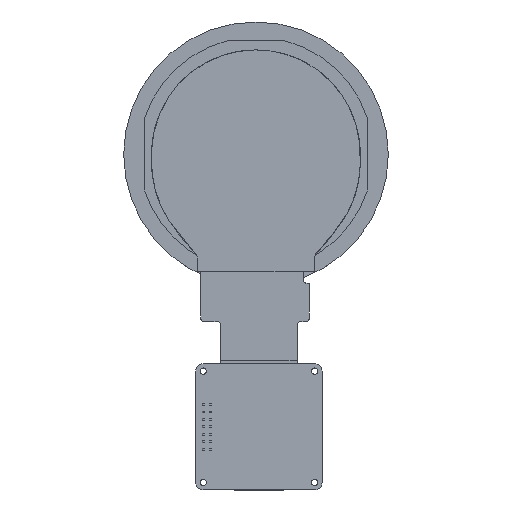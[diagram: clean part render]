
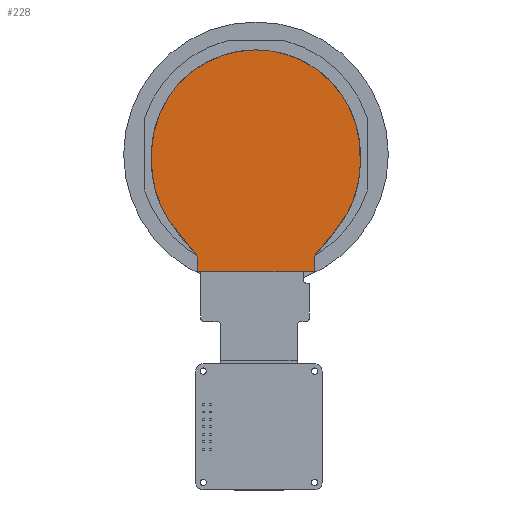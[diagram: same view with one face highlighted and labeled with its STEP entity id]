
A CAD part, top view. The second image highlights one B-rep face of the part: STEP entity #228.
In plain terms, the highlighted planar face has unit normal (0, 0, 1).
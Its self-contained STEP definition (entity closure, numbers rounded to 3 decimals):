
#33=CARTESIAN_POINT('',(15.7,-27.055,2.3));
#34=CARTESIAN_POINT('',(15.698,-26.834,2.3));
#35=CARTESIAN_POINT('',(15.693,-26.366,2.3));
#36=CARTESIAN_POINT('',(15.835,-25.57,2.3));
#37=CARTESIAN_POINT('',(16.325,-24.54,2.3));
#38=CARTESIAN_POINT('',(17.718,-23.275,2.3));
#39=CARTESIAN_POINT('',(19.484,-21.393,2.3));
#40=CARTESIAN_POINT('',(21.368,-18.928,2.3));
#41=CARTESIAN_POINT('',(23.157,-16.446,2.3));
#42=CARTESIAN_POINT('',(24.801,-13.807,2.3));
#43=CARTESIAN_POINT('',(26.046,-11.141,2.3));
#44=CARTESIAN_POINT('',(27.046,-8.258,2.3));
#45=CARTESIAN_POINT('',(27.697,-5.478,2.3));
#46=CARTESIAN_POINT('',(28.002,-2.99,2.3));
#47=CARTESIAN_POINT('',(28.105,-1.102,2.3));
#48=CARTESIAN_POINT('',(28.08,0.863,2.3));
#49=CARTESIAN_POINT('',(28.11,3.381,2.3));
#50=CARTESIAN_POINT('',(27.767,6.334,2.3));
#51=CARTESIAN_POINT('',(27.11,9.319,2.3));
#52=CARTESIAN_POINT('',(26.187,12.074,2.3));
#53=CARTESIAN_POINT('',(24.881,14.924,2.3));
#54=CARTESIAN_POINT('',(23.363,17.459,2.3));
#55=CARTESIAN_POINT('',(21.508,19.911,2.3));
#56=CARTESIAN_POINT('',(19.508,22.053,2.3));
#57=CARTESIAN_POINT('',(17.126,24.104,2.3));
#58=CARTESIAN_POINT('',(14.618,25.818,2.3));
#59=CARTESIAN_POINT('',(11.823,27.308,2.3));
#60=CARTESIAN_POINT('',(9.033,28.424,2.3));
#61=CARTESIAN_POINT('',(5.969,29.268,2.3));
#62=CARTESIAN_POINT('',(3.001,29.767,2.3));
#63=CARTESIAN_POINT('',(0.941,29.827,2.3));
#64=CARTESIAN_POINT('',(0.,29.855,2.3));
#66=CARTESIAN_POINT('',(15.7,-29.855,2.3));
#67=CARTESIAN_POINT('',(15.7,-28.922,2.3));
#68=CARTESIAN_POINT('',(15.7,-27.988,2.3));
#69=CARTESIAN_POINT('',(15.7,-27.055,2.3));
#71=CARTESIAN_POINT('',(-15.7,-29.855,2.3));
#72=CARTESIAN_POINT('',(-5.233,-29.855,2.3));
#73=CARTESIAN_POINT('',(5.233,-29.855,2.3));
#74=CARTESIAN_POINT('',(15.7,-29.855,2.3));
#76=CARTESIAN_POINT('',(0.,29.855,2.3));
#77=CARTESIAN_POINT('',(-0.941,29.827,2.3));
#78=CARTESIAN_POINT('',(-3.001,29.767,2.3));
#79=CARTESIAN_POINT('',(-5.969,29.268,2.3));
#80=CARTESIAN_POINT('',(-9.033,28.424,2.3));
#81=CARTESIAN_POINT('',(-11.823,27.308,2.3));
#82=CARTESIAN_POINT('',(-14.618,25.818,2.3));
#83=CARTESIAN_POINT('',(-17.126,24.104,2.3));
#84=CARTESIAN_POINT('',(-19.508,22.053,2.3));
#85=CARTESIAN_POINT('',(-21.508,19.911,2.3));
#86=CARTESIAN_POINT('',(-23.363,17.459,2.3));
#87=CARTESIAN_POINT('',(-24.881,14.924,2.3));
#88=CARTESIAN_POINT('',(-26.187,12.074,2.3));
#89=CARTESIAN_POINT('',(-27.11,9.319,2.3));
#90=CARTESIAN_POINT('',(-27.767,6.334,2.3));
#91=CARTESIAN_POINT('',(-28.11,3.381,2.3));
#92=CARTESIAN_POINT('',(-28.08,0.863,2.3));
#93=CARTESIAN_POINT('',(-28.105,-1.102,2.3));
#94=CARTESIAN_POINT('',(-28.002,-2.99,2.3));
#95=CARTESIAN_POINT('',(-27.697,-5.478,2.3));
#96=CARTESIAN_POINT('',(-27.046,-8.258,2.3));
#97=CARTESIAN_POINT('',(-26.046,-11.141,2.3));
#98=CARTESIAN_POINT('',(-24.801,-13.807,2.3));
#99=CARTESIAN_POINT('',(-23.157,-16.446,2.3));
#100=CARTESIAN_POINT('',(-21.368,-18.928,2.3));
#101=CARTESIAN_POINT('',(-19.484,-21.393,2.3));
#102=CARTESIAN_POINT('',(-17.718,-23.275,2.3));
#103=CARTESIAN_POINT('',(-16.325,-24.54,2.3));
#104=CARTESIAN_POINT('',(-15.836,-25.57,2.3));
#105=CARTESIAN_POINT('',(-15.693,-26.366,2.3));
#106=CARTESIAN_POINT('',(-15.704,-27.301,2.3));
#107=CARTESIAN_POINT('',(-15.699,-28.455,2.3));
#108=CARTESIAN_POINT('',(-15.7,-29.388,2.3));
#109=CARTESIAN_POINT('',(-15.7,-29.855,2.3));
#209=VERTEX_POINT('',#33);
#210=VERTEX_POINT('',#64);
#211=VERTEX_POINT('',#109);
#212=VERTEX_POINT('',#74);
#213=CARTESIAN_POINT('',(0.,0.,2.3));
#214=DIRECTION('',(0.,0.,1.));
#215=DIRECTION('',(1.,0.,0.));
#216=AXIS2_PLACEMENT_3D('',#213,#214,#215);
#217=PLANE('',#216);
#219=ORIENTED_EDGE('',*,*,#218,.F.);
#221=ORIENTED_EDGE('',*,*,#220,.F.);
#223=ORIENTED_EDGE('',*,*,#222,.F.);
#225=ORIENTED_EDGE('',*,*,#224,.F.);
#226=EDGE_LOOP('',(#219,#221,#223,#225));
#227=FACE_OUTER_BOUND('',#226,.F.);
#65=B_SPLINE_CURVE_WITH_KNOTS('',3,(#33,#34,#35,#36,#37,#38,#39,#40,#41,#42,#43,
#44,#45,#46,#47,#48,#49,#50,#51,#52,#53,#54,#55,#56,#57,#58,#59,#60,#61,#62,#63,
#64),.UNSPECIFIED.,.F.,.F.,(4,1,1,1,1,1,1,1,1,1,1,1,1,1,1,1,1,1,1,1,1,1,1,1,1,1,
1,1,1,4),(0.,0.009,0.018,0.031,
0.052,0.091,0.133,0.174,
0.211,0.255,0.289,0.331,
0.366,0.387,0.405,0.443,
0.486,0.521,0.563,0.599,
0.644,0.679,0.72,0.758,
0.802,0.839,0.882,0.919,
0.963,1.),.UNSPECIFIED.);
#70=B_SPLINE_CURVE_WITH_KNOTS('',3,(#66,#67,#68,#69),.UNSPECIFIED.,.F.,.F.,(4,
4),(0.,1.),.UNSPECIFIED.);
#75=B_SPLINE_CURVE_WITH_KNOTS('',3,(#71,#72,#73,#74),.UNSPECIFIED.,.F.,.F.,(4,
4),(0.,1.),.UNSPECIFIED.);
#110=B_SPLINE_CURVE_WITH_KNOTS('',3,(#76,#77,#78,#79,#80,#81,#82,#83,#84,#85,
#86,#87,#88,#89,#90,#91,#92,#93,#94,#95,#96,#97,#98,#99,#100,#101,#102,#103,
#104,#105,#106,#107,#108,#109),.UNSPECIFIED.,.F.,.F.,(4,1,1,1,1,1,1,1,1,1,1,1,1,
1,1,1,1,1,1,1,1,1,1,1,1,1,1,1,1,1,1,4),(0.,0.036,
0.078,0.113,0.156,0.191,
0.233,0.27,0.31,0.344,
0.386,0.422,0.462,0.496,
0.537,0.574,0.591,0.611,
0.646,0.686,0.719,0.761,
0.797,0.837,0.877,0.914,
0.934,0.947,0.956,0.965,
0.982,1.),.UNSPECIFIED.);
#218=EDGE_CURVE('',#209,#210,#65,.T.);
#220=EDGE_CURVE('',#212,#209,#70,.T.);
#222=EDGE_CURVE('',#211,#212,#75,.T.);
#224=EDGE_CURVE('',#210,#211,#110,.T.);
#228=ADVANCED_FACE('',(#227),#217,.T.);
